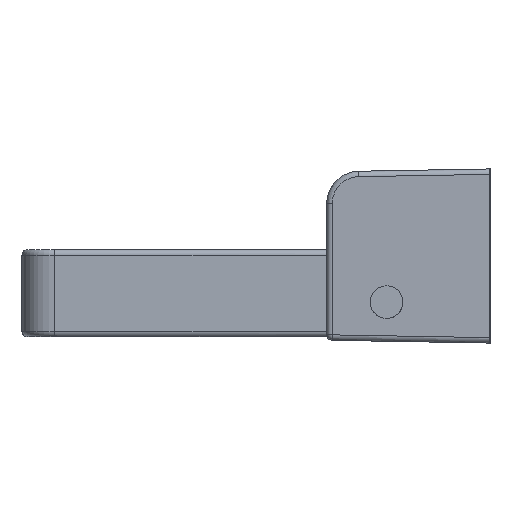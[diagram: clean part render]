
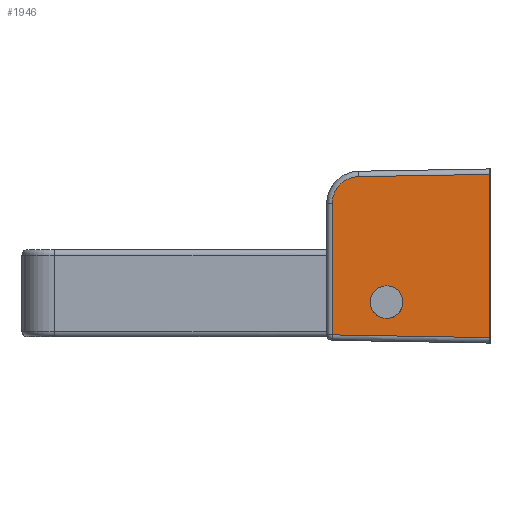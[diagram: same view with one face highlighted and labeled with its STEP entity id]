
A CAD part, left-side view. The second image highlights one B-rep face of the part: STEP entity #1946.
In plain terms, the highlighted planar face has unit normal (-1, 0.018, 0).
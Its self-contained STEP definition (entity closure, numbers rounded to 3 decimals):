
#178 = EDGE_CURVE ( 'NONE', #6304, #3149, #3155, .T. ) ;
#360 = CARTESIAN_POINT ( 'NONE',  ( -62.782, 12.5, 5.262 ) ) ;
#440 = ORIENTED_EDGE ( 'NONE', *, *, #178, .T. ) ;
#531 = PLANE ( 'NONE',  #2258 ) ;
#812 = EDGE_CURVE ( 'NONE', #5133, #5565, #4370, .T. ) ;
#827 = LINE ( 'NONE', #6694, #4964 ) ;
#850 = DIRECTION ( 'NONE',  ( 0., 0., -1. ) ) ;
#903 = CARTESIAN_POINT ( 'NONE',  ( -62.747, 14.509, 12.79 ) ) ;
#1120 = ORIENTED_EDGE ( 'NONE', *, *, #812, .F. ) ;
#1201 = VECTOR ( 'NONE', #1823, 1000. ) ;
#1465 = CARTESIAN_POINT ( 'NONE',  ( -62.834, 9.5, 2.262 ) ) ;
#1471 = CARTESIAN_POINT ( 'NONE',  ( -62.834, 9.5, 5.262 ) ) ;
#1498 = CARTESIAN_POINT ( 'NONE',  ( -62.764, 13.496, 15.264 ) ) ;
#1501 = VERTEX_POINT ( 'NONE', #5658 ) ;
#1526 = CARTESIAN_POINT ( 'NONE',  ( -62.834, 9.5, 5.262 ) ) ;
#1823 = DIRECTION ( 'NONE',  ( 0.017, 1., -0.017 ) ) ;
#1946 = ADVANCED_FACE ( 'NONE', ( #6518, #5872 ), #531, .T. ) ;
#1957 = CARTESIAN_POINT ( 'NONE',  ( -63., 0., 15.5 ) ) ;
#2048 = CARTESIAN_POINT ( 'NONE',  ( -62.782, 12.5, 2.262 ) ) ;
#2165 = ORIENTED_EDGE ( 'NONE', *, *, #3256, .F. ) ;
#2258 = AXIS2_PLACEMENT_3D ( 'NONE', #7197, #4992, #3845 ) ;
#2506 = CARTESIAN_POINT ( 'NONE',  ( -62.747, 14.509, 12.79 ) ) ;
#2518 = CARTESIAN_POINT ( 'NONE',  ( -63., 0., 16. ) ) ;
#2547 = CARTESIAN_POINT ( 'NONE',  ( -62.834, 9.5, 2.262 ) ) ;
#2569 = CARTESIAN_POINT ( 'NONE',  ( -62.887, 6.5, 5.262 ) ) ;
#2618 = VERTEX_POINT ( 'NONE', #4576 ) ;
#2715 = DIRECTION ( 'NONE',  ( -0.017, -1., -0.017 ) ) ;
#3111 = DIRECTION ( 'NONE',  ( 0., 0., -1. ) ) ;
#3149 = VERTEX_POINT ( 'NONE', #3502 ) ;
#3155 = LINE ( 'NONE', #5271, #6598 ) ;
#3161 = CARTESIAN_POINT ( 'NONE',  ( -62.887, 6.5, 2.262 ) ) ;
#3236 = CARTESIAN_POINT ( 'NONE',  ( -62.747, 14.509, 14.234 ) ) ;
#3256 = EDGE_CURVE ( 'NONE', #6169, #1501, #5122, .T. ) ;
#3502 = CARTESIAN_POINT ( 'NONE',  ( -62.747, 14.509, 0.753 ) ) ;
#3511 = EDGE_CURVE ( 'NONE', #3149, #1501, #827, .T. ) ;
#3643 = EDGE_LOOP ( 'NONE', ( #1120, #4509 ) ) ;
#3845 = DIRECTION ( 'NONE',  ( -0.017, -1., 0. ) ) ;
#4155 = CARTESIAN_POINT ( 'NONE',  ( -63., -0.009, 15.5 ) ) ;
#4370 =( BOUNDED_CURVE ( )  B_SPLINE_CURVE ( 3, ( #2547, #3161, #2569, #6488 ),
 .UNSPECIFIED., .F., .F. ) 
 B_SPLINE_CURVE_WITH_KNOTS ( ( 4, 4 ),
 ( 1.571, 4.712 ),
 .UNSPECIFIED. ) 
 CURVE ( )  GEOMETRIC_REPRESENTATION_ITEM ( )  RATIONAL_B_SPLINE_CURVE ( ( 1., 0.333, 0.333, 1. ) ) 
 REPRESENTATION_ITEM ( '' )  );
#4509 = ORIENTED_EDGE ( 'NONE', *, *, #5576, .F. ) ;
#4576 = CARTESIAN_POINT ( 'NONE',  ( -62.79, 12.052, 15.29 ) ) ;
#4880 = CARTESIAN_POINT ( 'NONE',  ( -62.79, 12.052, 15.29 ) ) ;
#4937 = EDGE_CURVE ( 'NONE', #6169, #2618, #6138, .T. ) ;
#4954 = ORIENTED_EDGE ( 'NONE', *, *, #3511, .T. ) ;
#4964 = VECTOR ( 'NONE', #2715, 1000. ) ;
#4992 = DIRECTION ( 'NONE',  ( -1., 0.017, 0. ) ) ;
#5122 = LINE ( 'NONE', #2518, #5640 ) ;
#5133 = VERTEX_POINT ( 'NONE', #1465 ) ;
#5183 = EDGE_LOOP ( 'NONE', ( #2165, #6905, #6228, #440, #4954 ) ) ;
#5271 = CARTESIAN_POINT ( 'NONE',  ( -62.747, 14.509, 0.262 ) ) ;
#5443 =( BOUNDED_CURVE ( )  B_SPLINE_CURVE ( 3, ( #1471, #360, #2048, #5955 ),
 .UNSPECIFIED., .F., .F. ) 
 B_SPLINE_CURVE_WITH_KNOTS ( ( 4, 4 ),
 ( 4.712, 7.854 ),
 .UNSPECIFIED. ) 
 CURVE ( )  GEOMETRIC_REPRESENTATION_ITEM ( )  RATIONAL_B_SPLINE_CURVE ( ( 1., 0.333, 0.333, 1. ) ) 
 REPRESENTATION_ITEM ( '' )  );
#5487 = EDGE_CURVE ( 'NONE', #2618, #6304, #6216, .T. ) ;
#5565 = VERTEX_POINT ( 'NONE', #1526 ) ;
#5576 = EDGE_CURVE ( 'NONE', #5565, #5133, #5443, .T. ) ;
#5640 = VECTOR ( 'NONE', #850, 1000. ) ;
#5658 = CARTESIAN_POINT ( 'NONE',  ( -63., 0., 0.5 ) ) ;
#5872 = FACE_OUTER_BOUND ( 'NONE', #5183, .T. ) ;
#5955 = CARTESIAN_POINT ( 'NONE',  ( -62.834, 9.5, 2.262 ) ) ;
#6138 = LINE ( 'NONE', #4155, #1201 ) ;
#6169 = VERTEX_POINT ( 'NONE', #1957 ) ;
#6216 =( BOUNDED_CURVE ( )  B_SPLINE_CURVE ( 3, ( #4880, #1498, #3236, #903 ),
 .UNSPECIFIED., .F., .F. ) 
 B_SPLINE_CURVE_WITH_KNOTS ( ( 4, 4 ),
 ( 4.73, 6.283 ),
 .UNSPECIFIED. ) 
 CURVE ( )  GEOMETRIC_REPRESENTATION_ITEM ( )  RATIONAL_B_SPLINE_CURVE ( ( 1., 0.809, 0.809, 1. ) ) 
 REPRESENTATION_ITEM ( '' )  );
#6228 = ORIENTED_EDGE ( 'NONE', *, *, #5487, .T. ) ;
#6304 = VERTEX_POINT ( 'NONE', #2506 ) ;
#6488 = CARTESIAN_POINT ( 'NONE',  ( -62.834, 9.5, 5.262 ) ) ;
#6518 = FACE_BOUND ( 'NONE', #3643, .T. ) ;
#6598 = VECTOR ( 'NONE', #3111, 1000. ) ;
#6694 = CARTESIAN_POINT ( 'NONE',  ( -62.995, 0.27, 0.505 ) ) ;
#6905 = ORIENTED_EDGE ( 'NONE', *, *, #4937, .T. ) ;
#7197 = CARTESIAN_POINT ( 'NONE',  ( -63., 0., 16. ) ) ;
